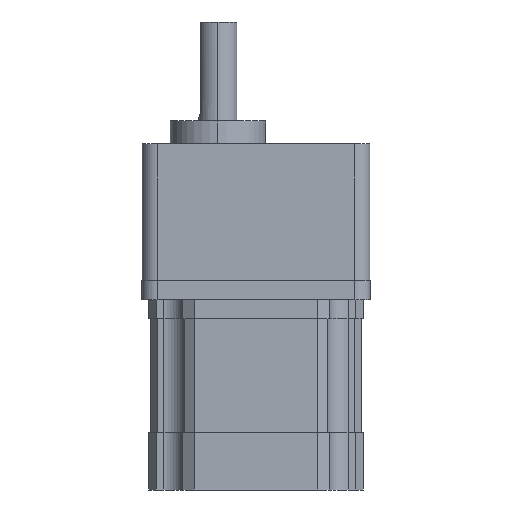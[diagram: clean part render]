
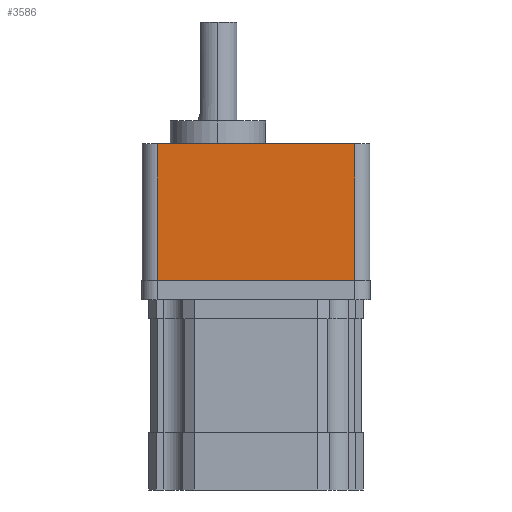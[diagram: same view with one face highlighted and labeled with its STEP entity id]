
A CAD part, left-side view. The second image highlights one B-rep face of the part: STEP entity #3586.
In plain terms, the highlighted planar face has unit normal (-1, 0, 0).
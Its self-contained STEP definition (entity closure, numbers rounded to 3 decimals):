
#24 = EDGE_CURVE ( 'NONE', #1357, #2082, #644, .T. ) ;
#40 = DIRECTION ( 'NONE',  ( 0., -1., 0. ) ) ;
#332 = FACE_OUTER_BOUND ( 'NONE', #987, .T. ) ;
#502 = EDGE_CURVE ( 'NONE', #2082, #3283, #599, .T. ) ;
#599 = LINE ( 'NONE', #992, #3818 ) ;
#644 = LINE ( 'NONE', #2222, #1994 ) ;
#782 = ORIENTED_EDGE ( 'NONE', *, *, #502, .F. ) ;
#792 = CARTESIAN_POINT ( 'NONE',  ( -29.9, 25.9, 0. ) ) ;
#820 = EDGE_CURVE ( 'NONE', #1357, #2787, #1690, .T. ) ;
#893 = CARTESIAN_POINT ( 'NONE',  ( -29.9, 25.9, 36. ) ) ;
#987 = EDGE_LOOP ( 'NONE', ( #2649, #782, #4161, #3604 ) ) ;
#992 = CARTESIAN_POINT ( 'NONE',  ( -29.9, -25.9, 36. ) ) ;
#1215 = VECTOR ( 'NONE', #3514, 1000. ) ;
#1357 = VERTEX_POINT ( 'NONE', #893 ) ;
#1690 = LINE ( 'NONE', #3872, #3197 ) ;
#1737 = DIRECTION ( 'NONE',  ( 0., 0., -1. ) ) ;
#1927 = CARTESIAN_POINT ( 'NONE',  ( -29.9, -25.9, 0. ) ) ;
#1994 = VECTOR ( 'NONE', #40, 1000. ) ;
#2082 = VERTEX_POINT ( 'NONE', #3611 ) ;
#2222 = CARTESIAN_POINT ( 'NONE',  ( -29.9, -25.9, 36. ) ) ;
#2304 = LINE ( 'NONE', #1927, #1215 ) ;
#2431 = AXIS2_PLACEMENT_3D ( 'NONE', #2714, #3684, #1737 ) ;
#2649 = ORIENTED_EDGE ( 'NONE', *, *, #3483, .T. ) ;
#2680 = PLANE ( 'NONE',  #2431 ) ;
#2714 = CARTESIAN_POINT ( 'NONE',  ( -29.9, -25.9, 36. ) ) ;
#2783 = CARTESIAN_POINT ( 'NONE',  ( -29.9, -25.9, 0. ) ) ;
#2787 = VERTEX_POINT ( 'NONE', #792 ) ;
#3197 = VECTOR ( 'NONE', #4182, 1000. ) ;
#3283 = VERTEX_POINT ( 'NONE', #2783 ) ;
#3483 = EDGE_CURVE ( 'NONE', #2787, #3283, #2304, .T. ) ;
#3514 = DIRECTION ( 'NONE',  ( 0., -1., 0. ) ) ;
#3581 = DIRECTION ( 'NONE',  ( 0., 0., -1. ) ) ;
#3586 = ADVANCED_FACE ( 'NONE', ( #332 ), #2680, .F. ) ;
#3604 = ORIENTED_EDGE ( 'NONE', *, *, #820, .T. ) ;
#3611 = CARTESIAN_POINT ( 'NONE',  ( -29.9, -25.9, 36. ) ) ;
#3684 = DIRECTION ( 'NONE',  ( 1., 0., 0. ) ) ;
#3818 = VECTOR ( 'NONE', #3581, 1000. ) ;
#3872 = CARTESIAN_POINT ( 'NONE',  ( -29.9, 25.9, 36. ) ) ;
#4161 = ORIENTED_EDGE ( 'NONE', *, *, #24, .F. ) ;
#4182 = DIRECTION ( 'NONE',  ( 0., 0., -1. ) ) ;
